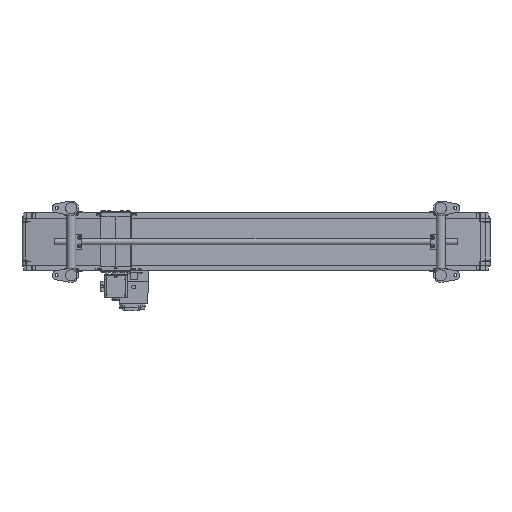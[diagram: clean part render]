
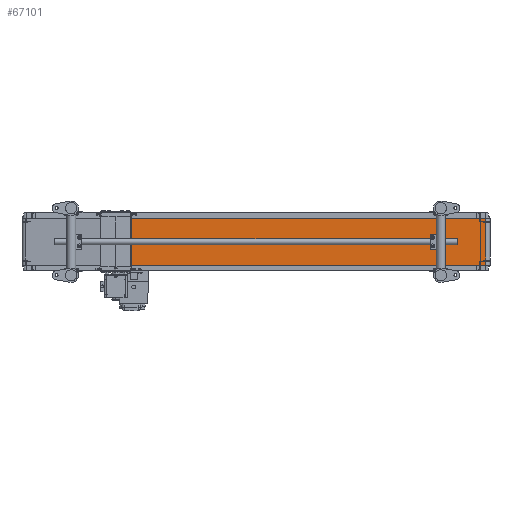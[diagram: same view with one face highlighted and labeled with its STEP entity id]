
A CAD part, front view. The second image highlights one B-rep face of the part: STEP entity #67101.
In plain terms, the highlighted planar face has unit normal (0.023, -1, 0).
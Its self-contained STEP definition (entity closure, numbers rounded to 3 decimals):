
#2403 = EDGE_LOOP ( 'NONE', ( #24847, #62640, #44595, #52781 ) ) ;
#2617 = VECTOR ( 'NONE', #52100, 1000. ) ;
#5157 = LINE ( 'NONE', #59789, #2617 ) ;
#10619 = CARTESIAN_POINT ( 'NONE',  ( 1982.907, -34.195, 100. ) ) ;
#13829 = CARTESIAN_POINT ( 'NONE',  ( 434.607, -70.005, 100. ) ) ;
#15193 = CARTESIAN_POINT ( 'NONE',  ( 1982.907, -34.195, -100. ) ) ;
#15462 = LINE ( 'NONE', #95565, #95244 ) ;
#17494 = VERTEX_POINT ( 'NONE', #13829 ) ;
#20908 = AXIS2_PLACEMENT_3D ( 'NONE', #40612, #57037, #67106 ) ;
#24726 = VECTOR ( 'NONE', #54406, 1000. ) ;
#24847 = ORIENTED_EDGE ( 'NONE', *, *, #95705, .T. ) ;
#34721 = PLANE ( 'NONE',  #20908 ) ;
#36285 = VERTEX_POINT ( 'NONE', #49643 ) ;
#37000 = EDGE_CURVE ( 'NONE', #36285, #17494, #96672, .T. ) ;
#40612 = CARTESIAN_POINT ( 'NONE',  ( 1982.907, -34.195, -100. ) ) ;
#42523 = VERTEX_POINT ( 'NONE', #10619 ) ;
#43721 = VERTEX_POINT ( 'NONE', #15193 ) ;
#44595 = ORIENTED_EDGE ( 'NONE', *, *, #67298, .F. ) ;
#46318 = CARTESIAN_POINT ( 'NONE',  ( 434.607, -70.005, -100. ) ) ;
#46721 = CARTESIAN_POINT ( 'NONE',  ( 1982.907, -34.195, 100. ) ) ;
#46787 = DIRECTION ( 'NONE',  ( 0., 0., 1. ) ) ;
#46914 = EDGE_CURVE ( 'NONE', #43721, #42523, #15462, .T. ) ;
#49643 = CARTESIAN_POINT ( 'NONE',  ( 434.607, -70.005, -100. ) ) ;
#52100 = DIRECTION ( 'NONE',  ( -1., -0.023, 0. ) ) ;
#52781 = ORIENTED_EDGE ( 'NONE', *, *, #46914, .T. ) ;
#54406 = DIRECTION ( 'NONE',  ( -1., -0.023, 0. ) ) ;
#57037 = DIRECTION ( 'NONE',  ( -0.023, 1., 0. ) ) ;
#59789 = CARTESIAN_POINT ( 'NONE',  ( 1982.907, -34.195, -100. ) ) ;
#62640 = ORIENTED_EDGE ( 'NONE', *, *, #37000, .F. ) ;
#67101 = ADVANCED_FACE ( 'NONE', ( #102564 ), #34721, .F. ) ;
#67106 = DIRECTION ( 'NONE',  ( 1., 0.023, 0. ) ) ;
#67298 = EDGE_CURVE ( 'NONE', #43721, #36285, #5157, .T. ) ;
#70311 = DIRECTION ( 'NONE',  ( 0., 0., 1. ) ) ;
#75412 = VECTOR ( 'NONE', #70311, 1000. ) ;
#79583 = LINE ( 'NONE', #46721, #24726 ) ;
#95244 = VECTOR ( 'NONE', #46787, 1000. ) ;
#95565 = CARTESIAN_POINT ( 'NONE',  ( 1982.907, -34.195, -100. ) ) ;
#95705 = EDGE_CURVE ( 'NONE', #42523, #17494, #79583, .T. ) ;
#96672 = LINE ( 'NONE', #46318, #75412 ) ;
#102564 = FACE_OUTER_BOUND ( 'NONE', #2403, .T. ) ;
